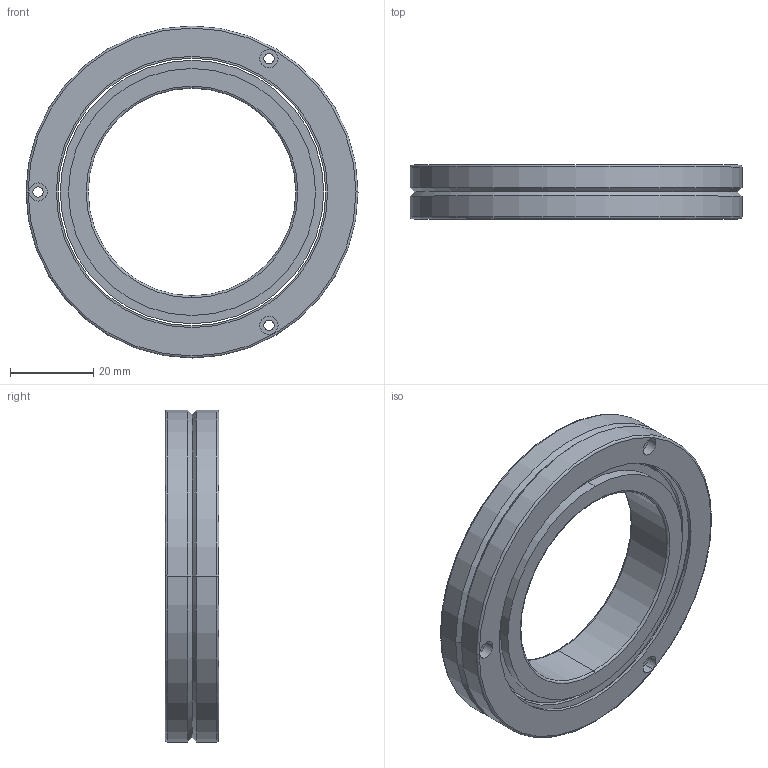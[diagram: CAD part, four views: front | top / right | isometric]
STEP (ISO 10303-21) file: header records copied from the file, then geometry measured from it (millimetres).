
FILE_DESCRIPTION((''),'2;1');
FILE_NAME('RB5013','2014-12-13T',('Administrator'),(''),'PRO/ENGINEER BY PARAMETRIC TECHNOLOGY CORPORATION, 2010180','PRO/ENGINEER BY PARAMETRIC TECHNOLOGY CORPORATION, 2010180','');
FILE_SCHEMA(('AUTOMOTIVE_DESIGN_CC2 { 1 2 10303 214 -1 1 5 2 }'));
Length unit declared in the file: millimetre
Products named in the file (1): RB5013
Bounding box: 80 x 13 x 80 mm (x, y, z)
Volume: 31803.1 mm3; surface area: 19082.9 mm2
Topology: 2 solids, 2 shells, 80 faces, 166 edges, 102 vertices
Faces by surface type: cylinder 44, plane 16, cone 12, torus 8
Entity records: 2263 total; most frequent: DIRECTION 436, CARTESIAN_POINT 348, ORIENTED_EDGE 332, AXIS2_PLACEMENT_3D 190, EDGE_CURVE 166, CIRCLE 110, VERTEX_POINT 102, EDGE_LOOP 102
